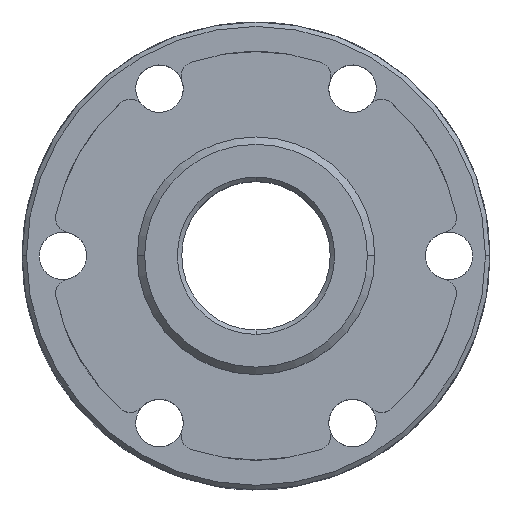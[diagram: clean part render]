
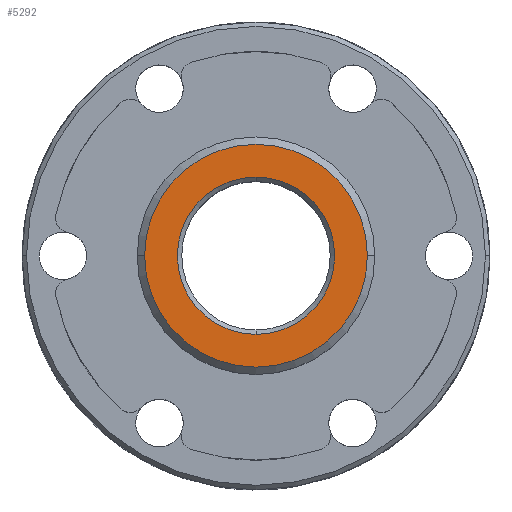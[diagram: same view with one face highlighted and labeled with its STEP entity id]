
A CAD part, top view. The second image highlights one B-rep face of the part: STEP entity #5292.
In plain terms, the highlighted planar face has unit normal (0, 0, 1).
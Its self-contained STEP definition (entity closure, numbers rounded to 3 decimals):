
#1396=CARTESIAN_POINT('',(0.,0.,17.2));
#1397=DIRECTION('',(0.,0.,1.));
#1398=DIRECTION('',(-1.,0.,0.));
#1399=AXIS2_PLACEMENT_3D('',#1396,#1397,#1398);
#1404=CARTESIAN_POINT('',(0.,0.,17.2));
#1405=DIRECTION('',(0.,0.,1.));
#1406=DIRECTION('',(1.,0.,0.));
#1407=AXIS2_PLACEMENT_3D('',#1404,#1405,#1406);
#1412=CARTESIAN_POINT('',(0.,0.,17.2));
#1413=DIRECTION('',(0.,0.,-1.));
#1414=DIRECTION('',(0.,1.,0.));
#1415=AXIS2_PLACEMENT_3D('',#1412,#1413,#1414);
#1420=CARTESIAN_POINT('',(0.,0.,17.2));
#1421=DIRECTION('',(0.,0.,-1.));
#1422=DIRECTION('',(0.,-1.,0.));
#1423=AXIS2_PLACEMENT_3D('',#1420,#1421,#1422);
#4275=CARTESIAN_POINT('',(-7.5,0.,17.2));
#4276=CARTESIAN_POINT('',(7.5,0.,17.2));
#4277=VERTEX_POINT('',#4275);
#4278=VERTEX_POINT('',#4276);
#4561=CARTESIAN_POINT('',(0.,5.3,17.2));
#4562=CARTESIAN_POINT('',(0.,-5.3,17.2));
#4563=VERTEX_POINT('',#4561);
#4564=VERTEX_POINT('',#4562);
#5276=CARTESIAN_POINT('',(0.,0.,17.2));
#5277=DIRECTION('',(0.,0.,1.));
#5278=DIRECTION('',(1.,0.,0.));
#5279=AXIS2_PLACEMENT_3D('',#5276,#5277,#5278);
#5280=PLANE('',#5279);
#5282=ORIENTED_EDGE('',*,*,#5281,.F.);
#5283=ORIENTED_EDGE('',*,*,#5266,.F.);
#5284=EDGE_LOOP('',(#5282,#5283));
#5285=FACE_OUTER_BOUND('',#5284,.F.);
#5287=ORIENTED_EDGE('',*,*,#5286,.F.);
#5289=ORIENTED_EDGE('',*,*,#5288,.F.);
#5290=EDGE_LOOP('',(#5287,#5289));
#5291=FACE_BOUND('',#5290,.F.);
#1400=CIRCLE('',#1399,7.5);
#1408=CIRCLE('',#1407,7.5);
#1416=CIRCLE('',#1415,5.3);
#1424=CIRCLE('',#1423,5.3);
#5266=EDGE_CURVE('',#4278,#4277,#1408,.T.);
#5281=EDGE_CURVE('',#4277,#4278,#1400,.T.);
#5286=EDGE_CURVE('',#4563,#4564,#1416,.T.);
#5288=EDGE_CURVE('',#4564,#4563,#1424,.T.);
#5292=ADVANCED_FACE('',(#5285,#5291),#5280,.T.);
